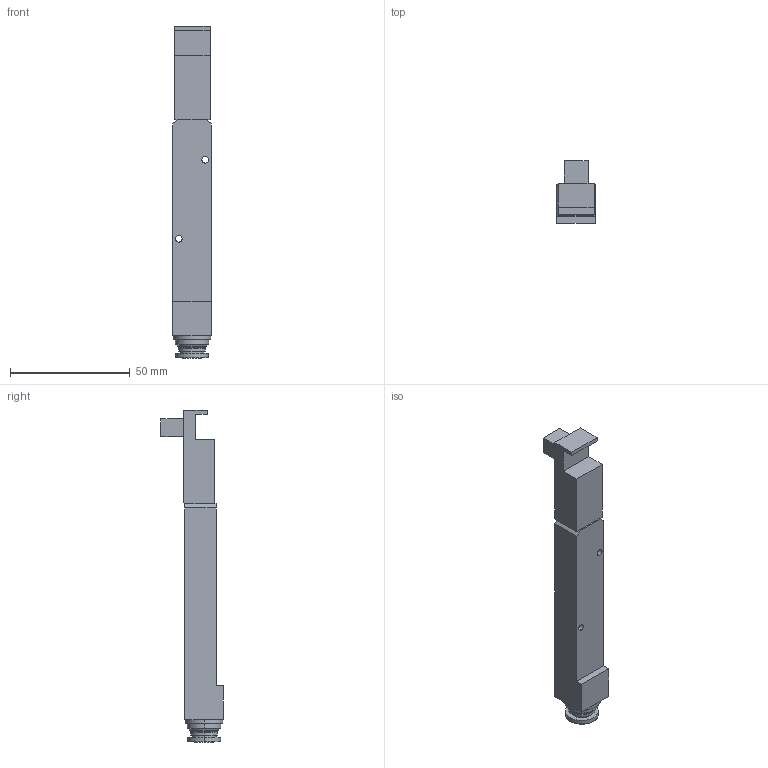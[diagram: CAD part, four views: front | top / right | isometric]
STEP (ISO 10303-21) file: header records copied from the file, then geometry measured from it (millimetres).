
FILE_DESCRIPTION( (''), '2;1');
FILE_NAME ('CVICAD02.6312.F15ZX-XPx8_21279.stp','2021-07-12T19:11:42',(''),(''),'spGate 12.6.6','','');
FILE_SCHEMA (('AUTOMOTIVE_DESIGN'));
Length unit declared in the file: millimetre
Bounding box: 16 x 26.1 x 138.9 mm (x, y, z)
Volume: 27119.6 mm3; surface area: 9327 mm2
Topology: 1 solids, 1 shells, 62 faces, 145 edges, 92 vertices
Faces by surface type: plane 32, cylinder 18, bspline 12
Entity records: 3042 total; most frequent: CARTESIAN_POINT 470, ORIENTED_EDGE 290, DIRECTION 261, COLOUR_RGB 208, PRESENTATION_STYLE_ASSIGNMENT 208, STYLED_ITEM 208, EDGE_CURVE 145, DRAUGHTING_PRE_DEFINED_CURVE_FONT 145
